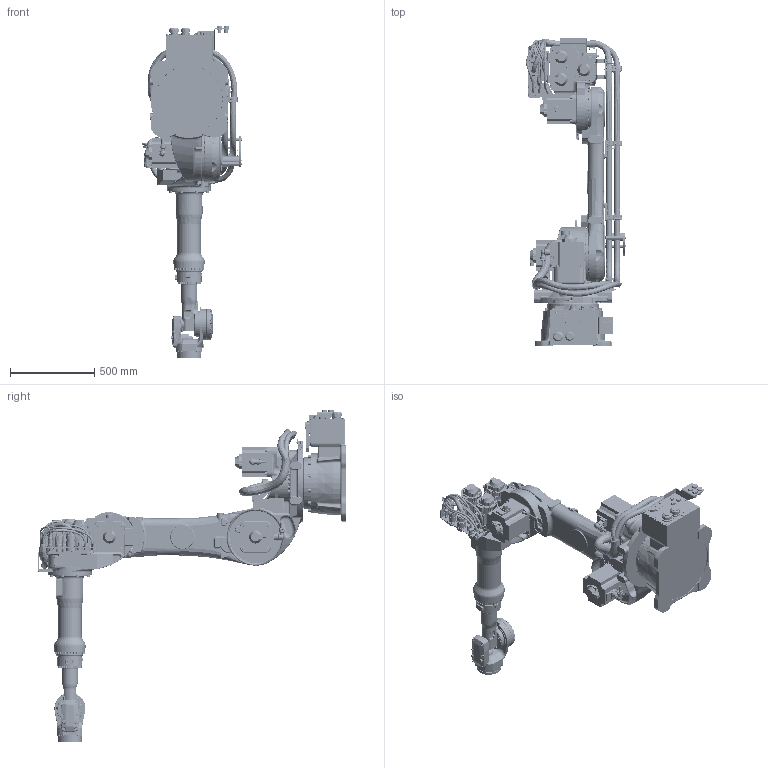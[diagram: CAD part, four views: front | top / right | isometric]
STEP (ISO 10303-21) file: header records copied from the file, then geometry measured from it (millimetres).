
FILE_DESCRIPTION((''),'2;1');
FILE_NAME('GP110_ASM','2017-12-26T',('robo228'),('YASKAWA ELECTRIC CORPORATION'),'PRO/ENGINEER BY PARAMETRIC TECHNOLOGY CORPORATION, 2015030','PRO/ENGINEER BY PARAMETRIC TECHNOLOGY CORPORATION, 2015030','');
FILE_SCHEMA(('CONFIG_CONTROL_DESIGN'));
Products named in the file (8): BASE_GP110; S_AXIS_GP110_SW2; L_AXIS_GP110_SW1; U_AXIS_GP110_SW1; R_AXIS_GP110_SW1; B_AXIS_GP110_SW1; T_AXIS_GP110_SW1; GP110_ASM
Assembly tree (7 placements, depth 2):
  GP110_ASM
    BASE_GP110
    S_AXIS_GP110_SW2
    L_AXIS_GP110_SW1
    U_AXIS_GP110_SW1
    R_AXIS_GP110_SW1
    B_AXIS_GP110_SW1
    T_AXIS_GP110_SW1
Bounding box: 595.46 x 1835.64 x 1975.5 mm (x, y, z)
Volume: 148474966.7 mm3; surface area: 8224252 mm2
Topology: 14 solids, 101 shells, 15355 faces, 39289 edges, 25111 vertices
Faces by surface type: cylinder 6063, plane 5414, cone 1695, bspline 1069, torus 930, sphere 130, extrusion 36, revolution 18
Entity records: 561030 total; most frequent: CARTESIAN_POINT 188528, DIRECTION 79084, ORIENTED_EDGE 78152, EDGE_CURVE 39080, AXIS2_PLACEMENT_3D 31245, VERTEX_POINT 25081, EDGE_LOOP 16947, CIRCLE 16945
